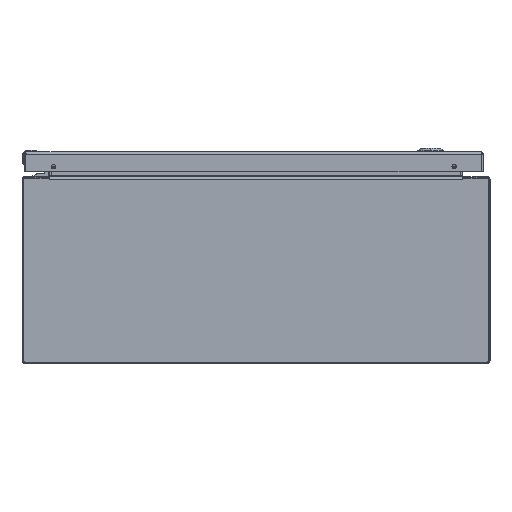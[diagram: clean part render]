
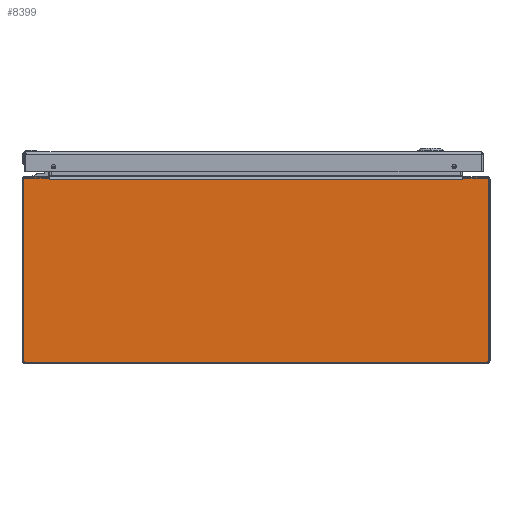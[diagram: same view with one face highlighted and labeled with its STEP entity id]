
A CAD part, front view. The second image highlights one B-rep face of the part: STEP entity #8399.
In plain terms, the highlighted planar face has unit normal (0, -1, 0).
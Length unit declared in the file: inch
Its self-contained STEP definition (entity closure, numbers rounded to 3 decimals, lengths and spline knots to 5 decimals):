
#7502=CARTESIAN_POINT('',(9.887,0.,3.897));
#7503=DIRECTION('',(0.,-1.,0.));
#7504=DIRECTION('',(1.,0.,0.));
#7505=AXIS2_PLACEMENT_3D('',#7502,#7503,#7504);
#7510=DIRECTION('',(0.,0.,-1.));
#7511=VECTOR('',#7510,7.764);
#7512=CARTESIAN_POINT('',(9.967,0.,3.897));
#7513=LINE('',#7512,#7511);
#7517=CARTESIAN_POINT('',(9.887,0.,-3.867));
#7518=DIRECTION('',(0.,-1.,0.));
#7519=DIRECTION('',(0.,0.,-1.));
#7520=AXIS2_PLACEMENT_3D('',#7517,#7518,#7519);
#7525=CARTESIAN_POINT('',(-9.887,0.,-3.867));
#7526=DIRECTION('',(0.,-1.,0.));
#7527=DIRECTION('',(-1.,0.,0.));
#7528=AXIS2_PLACEMENT_3D('',#7525,#7526,#7527);
#7533=DIRECTION('',(0.,0.,1.));
#7534=VECTOR('',#7533,7.764);
#7535=CARTESIAN_POINT('',(-9.967,0.,-3.867));
#7536=LINE('',#7535,#7534);
#7540=CARTESIAN_POINT('',(-9.887,0.,3.897));
#7541=DIRECTION('',(0.,-1.,0.));
#7542=DIRECTION('',(0.,0.,1.));
#7543=AXIS2_PLACEMENT_3D('',#7540,#7541,#7542);
#7555=DIRECTION('',(-1.,0.,0.));
#7556=VECTOR('',#7555,1.062);
#7557=CARTESIAN_POINT('',(9.887,0.,3.977));
#7558=LINE('',#7557,#7556);
#7583=DIRECTION('',(0.,0.,-1.));
#7584=VECTOR('',#7583,0.094);
#7585=CARTESIAN_POINT('',(8.825,0.,3.977));
#7586=LINE('',#7585,#7584);
#7726=DIRECTION('',(1.,0.,0.));
#7727=VECTOR('',#7726,17.65);
#7728=CARTESIAN_POINT('',(-8.825,0.,3.883));
#7729=LINE('',#7728,#7727);
#7770=DIRECTION('',(0.,0.,1.));
#7771=VECTOR('',#7770,0.094);
#7772=CARTESIAN_POINT('',(-8.825,0.,3.883));
#7773=LINE('',#7772,#7771);
#7805=DIRECTION('',(-1.,0.,0.));
#7806=VECTOR('',#7805,1.062);
#7807=CARTESIAN_POINT('',(-8.825,0.,3.977));
#7808=LINE('',#7807,#7806);
#7847=DIRECTION('',(1.,0.,0.));
#7848=VECTOR('',#7847,19.774);
#7849=CARTESIAN_POINT('',(-9.887,0.,-3.947));
#7850=LINE('',#7849,#7848);
#8252=CARTESIAN_POINT('',(-8.825,0.,3.883));
#8253=CARTESIAN_POINT('',(8.825,0.,3.883));
#8254=VERTEX_POINT('',#8252);
#8255=VERTEX_POINT('',#8253);
#8328=CARTESIAN_POINT('',(8.825,0.,3.977));
#8330=VERTEX_POINT('',#8328);
#8332=CARTESIAN_POINT('',(-8.825,0.,3.977));
#8334=VERTEX_POINT('',#8332);
#8336=CARTESIAN_POINT('',(9.967,0.,3.897));
#8337=CARTESIAN_POINT('',(9.887,0.,3.977));
#8338=VERTEX_POINT('',#8336);
#8339=VERTEX_POINT('',#8337);
#8344=CARTESIAN_POINT('',(9.887,0.,-3.947));
#8345=CARTESIAN_POINT('',(9.967,0.,-3.867));
#8346=VERTEX_POINT('',#8344);
#8347=VERTEX_POINT('',#8345);
#8352=CARTESIAN_POINT('',(-9.967,0.,-3.867));
#8353=CARTESIAN_POINT('',(-9.887,0.,-3.947));
#8354=VERTEX_POINT('',#8352);
#8355=VERTEX_POINT('',#8353);
#8360=CARTESIAN_POINT('',(-9.887,0.,3.977));
#8361=CARTESIAN_POINT('',(-9.967,0.,3.897));
#8362=VERTEX_POINT('',#8360);
#8363=VERTEX_POINT('',#8361);
#8368=CARTESIAN_POINT('',(0.,0.,0.));
#8369=DIRECTION('',(0.,-1.,0.));
#8370=DIRECTION('',(-1.,0.,0.));
#8371=AXIS2_PLACEMENT_3D('',#8368,#8369,#8370);
#8372=PLANE('',#8371);
#8374=ORIENTED_EDGE('',*,*,#8373,.F.);
#8376=ORIENTED_EDGE('',*,*,#8375,.T.);
#8378=ORIENTED_EDGE('',*,*,#8377,.F.);
#8380=ORIENTED_EDGE('',*,*,#8379,.F.);
#8382=ORIENTED_EDGE('',*,*,#8381,.F.);
#8384=ORIENTED_EDGE('',*,*,#8383,.T.);
#8386=ORIENTED_EDGE('',*,*,#8385,.F.);
#8388=ORIENTED_EDGE('',*,*,#8387,.F.);
#8390=ORIENTED_EDGE('',*,*,#8389,.F.);
#8392=ORIENTED_EDGE('',*,*,#8391,.T.);
#8394=ORIENTED_EDGE('',*,*,#8393,.F.);
#8396=ORIENTED_EDGE('',*,*,#8395,.F.);
#8397=EDGE_LOOP('',(#8374,#8376,#8378,#8380,#8382,#8384,#8386,#8388,#8390,#8392,
#8394,#8396));
#8398=FACE_OUTER_BOUND('',#8397,.F.);
#7506=CIRCLE('',#7505,0.08);
#7521=CIRCLE('',#7520,0.08);
#7529=CIRCLE('',#7528,0.08);
#7544=CIRCLE('',#7543,0.08);
#8373=EDGE_CURVE('',#8338,#8339,#7506,.T.);
#8375=EDGE_CURVE('',#8338,#8347,#7513,.T.);
#8377=EDGE_CURVE('',#8346,#8347,#7521,.T.);
#8379=EDGE_CURVE('',#8355,#8346,#7850,.T.);
#8381=EDGE_CURVE('',#8354,#8355,#7529,.T.);
#8383=EDGE_CURVE('',#8354,#8363,#7536,.T.);
#8385=EDGE_CURVE('',#8362,#8363,#7544,.T.);
#8387=EDGE_CURVE('',#8334,#8362,#7808,.T.);
#8389=EDGE_CURVE('',#8254,#8334,#7773,.T.);
#8391=EDGE_CURVE('',#8254,#8255,#7729,.T.);
#8393=EDGE_CURVE('',#8330,#8255,#7586,.T.);
#8395=EDGE_CURVE('',#8339,#8330,#7558,.T.);
#8399=ADVANCED_FACE('',(#8398),#8372,.T.);
